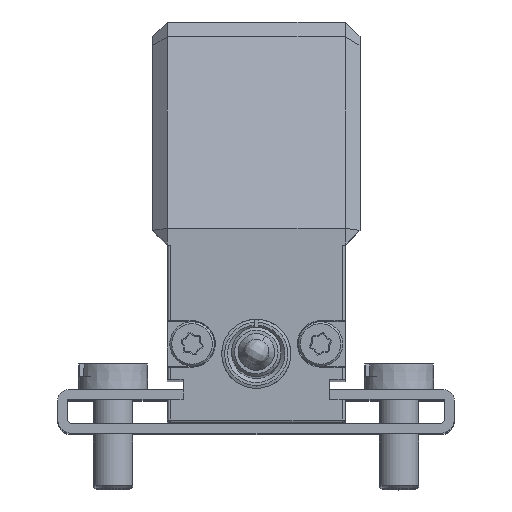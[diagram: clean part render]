
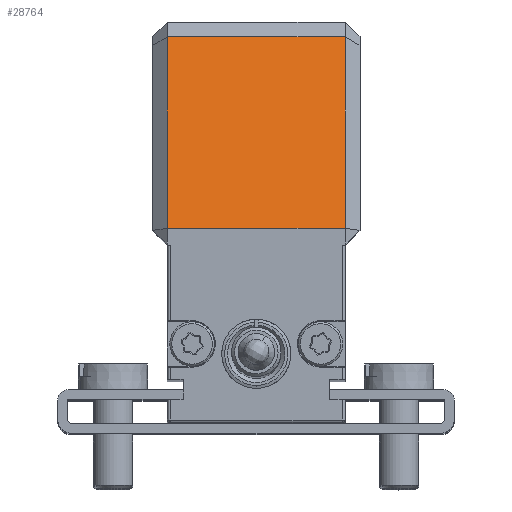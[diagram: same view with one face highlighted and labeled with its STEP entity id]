
A CAD part, top view. The second image highlights one B-rep face of the part: STEP entity #28764.
In plain terms, the highlighted planar face has unit normal (0, 0.259, 0.966).
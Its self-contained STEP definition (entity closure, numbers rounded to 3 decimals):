
#3524 = CARTESIAN_POINT ( 'NONE',  ( -9.298, -10.588, 133. ) ) ;
#3725 = DIRECTION ( 'NONE',  ( 1., 0., 0. ) ) ;
#3726 = VECTOR ( 'NONE', #3725, 1000. ) ;
#3727 = CARTESIAN_POINT ( 'NONE',  ( -10.798, -10.588, 133. ) ) ;
#3728 = LINE ( 'NONE', #3727, #3726 ) ;
#3729 = CARTESIAN_POINT ( 'NONE',  ( 8.702, -10.588, 133. ) ) ;
#4695 = DIRECTION ( 'NONE',  ( 0., 0.966, -0.259 ) ) ;
#4696 = VECTOR ( 'NONE', #4695, 1000. ) ;
#4697 = CARTESIAN_POINT ( 'NONE',  ( 8.702, -10.588, 133. ) ) ;
#4703 = LINE ( 'NONE', #4697, #4696 ) ;
#4736 = DIRECTION ( 'NONE',  ( 1., 0., 0. ) ) ;
#4737 = VECTOR ( 'NONE', #4736, 1000. ) ;
#4738 = CARTESIAN_POINT ( 'NONE',  ( -10.798, 8.812, 127.802 ) ) ;
#4739 = DIRECTION ( 'NONE',  ( 0., -0.966, 0.259 ) ) ;
#4740 = DIRECTION ( 'NONE',  ( 0., 0.259, 0.966 ) ) ;
#4741 = CARTESIAN_POINT ( 'NONE',  ( -10.798, -10.588, 133. ) ) ;
#4742 = AXIS2_PLACEMENT_3D ( 'NONE', #4741, #4740, #4739 ) ;
#4743 = LINE ( 'NONE', #4738, #4737 ) ;
#4744 = PLANE ( 'NONE',  #4742 ) ;
#4760 = FACE_OUTER_BOUND ( 'NONE', #28765, .T. ) ;
#4792 = CARTESIAN_POINT ( 'NONE',  ( 8.702, 8.812, 127.802 ) ) ;
#4793 = CARTESIAN_POINT ( 'NONE',  ( -9.298, 8.812, 127.802 ) ) ;
#4962 = DIRECTION ( 'NONE',  ( 0., 0.966, -0.259 ) ) ;
#4963 = VECTOR ( 'NONE', #4962, 1000. ) ;
#4964 = CARTESIAN_POINT ( 'NONE',  ( -9.298, -10.588, 133. ) ) ;
#4969 = LINE ( 'NONE', #4964, #4963 ) ;
#28374 = VERTEX_POINT ( 'NONE', #3524 ) ;
#28463 = VERTEX_POINT ( 'NONE', #3729 ) ;
#28465 = EDGE_CURVE ( 'NONE', #28374, #28463, #3728, .T. ) ;
#28744 = ORIENTED_EDGE ( 'NONE', *, *, #28745, .T. ) ;
#28745 = EDGE_CURVE ( 'NONE', #28463, #28770, #4703, .T. ) ;
#28764 = ADVANCED_FACE ( 'NONE', ( #4760 ), #4744, .T. ) ;
#28765 = EDGE_LOOP ( 'NONE', ( #28767, #28771, #28827, #28744 ) ) ;
#28767 = ORIENTED_EDGE ( 'NONE', *, *, #28768, .F. ) ;
#28768 = EDGE_CURVE ( 'NONE', #28769, #28770, #4743, .T. ) ;
#28769 = VERTEX_POINT ( 'NONE', #4793 ) ;
#28770 = VERTEX_POINT ( 'NONE', #4792 ) ;
#28771 = ORIENTED_EDGE ( 'NONE', *, *, #28826, .F. ) ;
#28826 = EDGE_CURVE ( 'NONE', #28374, #28769, #4969, .T. ) ;
#28827 = ORIENTED_EDGE ( 'NONE', *, *, #28465, .T. ) ;
